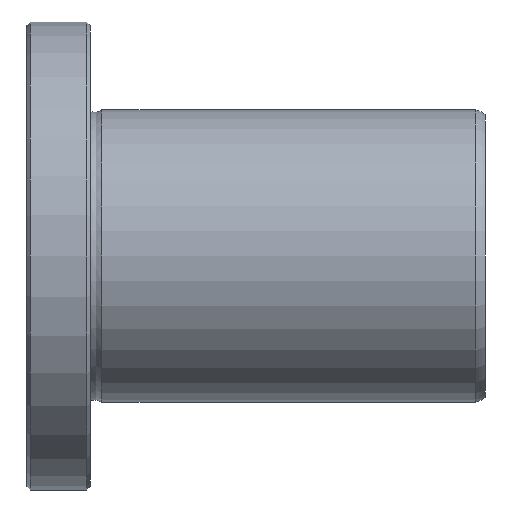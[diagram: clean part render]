
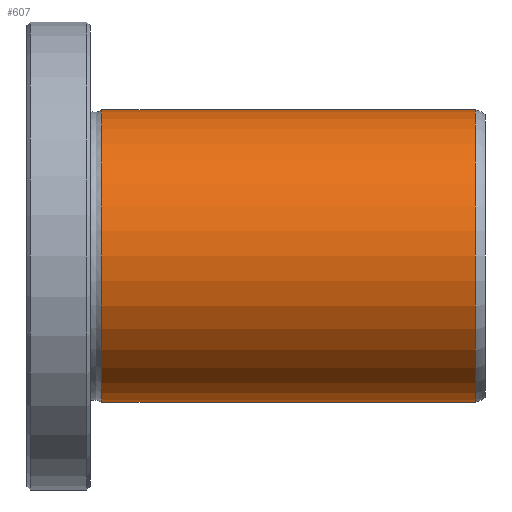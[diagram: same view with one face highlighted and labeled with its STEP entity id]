
A CAD part, front view. The second image highlights one B-rep face of the part: STEP entity #607.
In plain terms, the highlighted cylindrical face has radius 30 mm (diameter 60 mm), a full revolution.
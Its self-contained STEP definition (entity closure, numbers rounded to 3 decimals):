
#573=CARTESIAN_POINT('',(92.016,0.0,30.));
#574=VERTEX_POINT('',#573);
#575=CARTESIAN_POINT('',(92.016,0.0,0.0));
#576=DIRECTION('',(-1.0,0.0,0.0));
#577=DIRECTION('',(0.0,0.0,1.0));
#578=AXIS2_PLACEMENT_3D('',#575,#576,#577);
#579=CIRCLE('',#578,30.);
#580=EDGE_CURVE('',#574,#574,#579,.T.);
#588=CARTESIAN_POINT('',(53.708,0.0,0.0));
#589=DIRECTION('',(-1.0,0.0,0.0));
#590=DIRECTION('',(0.0,0.0,1.0));
#591=AXIS2_PLACEMENT_3D('',#588,#589,#590);
#592=CYLINDRICAL_SURFACE('',#591,30.);
#593=CARTESIAN_POINT('',(15.4,0.0,30.0));
#594=VERTEX_POINT('',#593);
#595=CARTESIAN_POINT('',(15.4,0.0,0.0));
#596=DIRECTION('',(-1.0,0.0,0.0));
#597=DIRECTION('',(0.0,0.0,1.0));
#598=AXIS2_PLACEMENT_3D('',#595,#596,#597);
#599=CIRCLE('',#598,30.0);
#600=EDGE_CURVE('',#594,#594,#599,.T.);
#601=ORIENTED_EDGE('',*,*,#600,.F.);
#602=EDGE_LOOP('',(#601));
#603=FACE_OUTER_BOUND('',#602,.T.);
#604=ORIENTED_EDGE('',*,*,#580,.T.);
#605=EDGE_LOOP('',(#604));
#606=FACE_BOUND('',#605,.T.);
#607=ADVANCED_FACE('',(#603,#606),#592,.T.);
